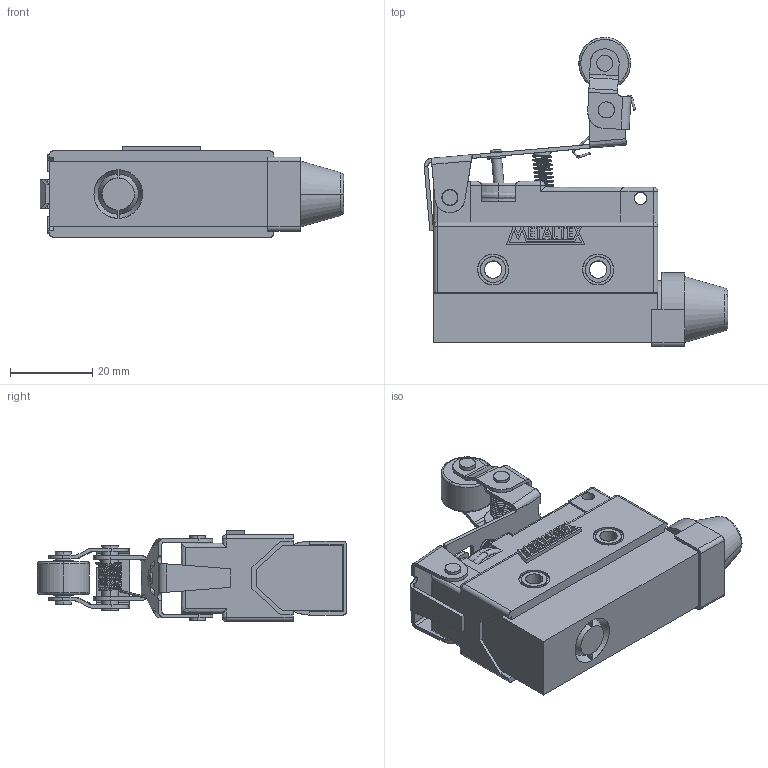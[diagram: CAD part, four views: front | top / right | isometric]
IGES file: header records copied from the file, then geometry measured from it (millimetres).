
Start section: SolidWorks IGES file using analytic representation for surfaces
Global section: file name: D:\X - Arquivos\PROEX\Empresas\P11 - METALTEX\01 - Produtos\IGES\4ª remessa\6ª etapa\FM7144.IGS; native system: SolidWorks 2012; preprocessor: SolidWorks 2012; author: Usuario; date: 180620.131043; units: millimetre
Bounding box: 73.76 x 75.11 x 22 mm (x, y, z)
Surface area: 15197.9 mm2 (no closed solid volume)
Topology: 0 solids, 0 shells, 509 faces, 6182 edges, 6153 vertices
Faces by surface type: bspline 323, revolution 186
